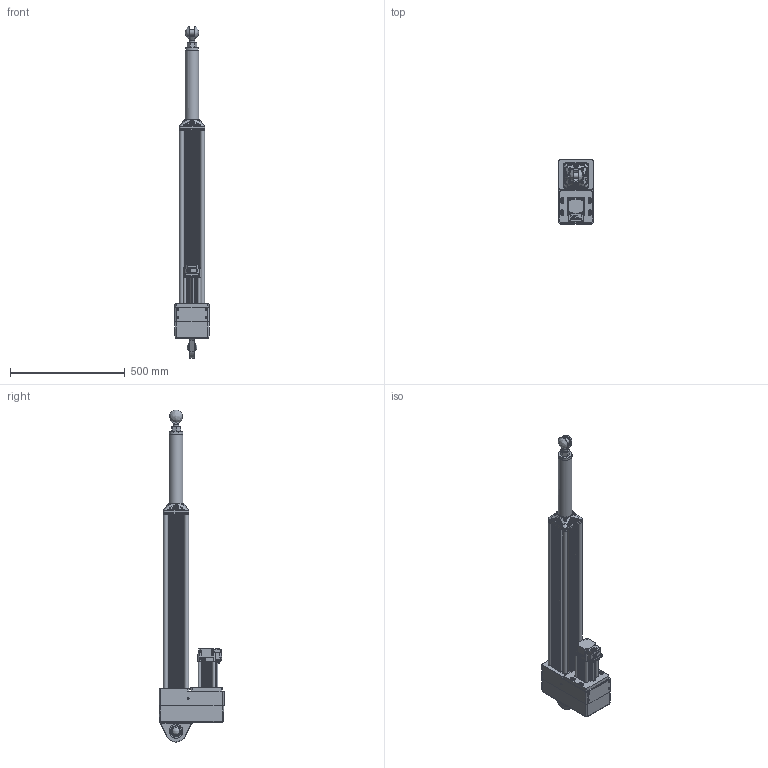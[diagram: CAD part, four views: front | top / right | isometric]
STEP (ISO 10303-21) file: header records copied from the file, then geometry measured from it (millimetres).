
FILE_DESCRIPTION (( 'STEP AP214' ), '1' );
FILE_NAME ('AG_9863 +-300.STEP', '2025-01-30T12:48:53', ( '' ), ( '' ), 'SwSTEP 2.0', 'SolidWorks 2022', '' );
FILE_SCHEMA (( 'AUTOMOTIVE_DESIGN' ));
Length unit declared in the file: millimetre
Products named in the file (1): AG_9863 +-300
Bounding box: 150 x 284.75 x 1444.73 mm (x, y, z)
Volume: 18002386.7 mm3; surface area: 1773393.6 mm2
Topology: 62 solids, 63 shells, 4421 faces, 11357 edges, 7389 vertices
Faces by surface type: plane 1923, cylinder 1175, bspline 900, cone 251, torus 153, sphere 19
Full cylindrical faces by diameter (mm): 2.5 x2, 2.845 x2, 2.934 x2, 3 x2, 3.24 x1, 3.242 x1, 3.5 x2, 3.676 x1, 4.019 x8, 4.2 x9, 4.201 x1, 4.3 x1, 4.773 x4, 5 x12, 5.5 x4, 5.7 x1, 5.9 x1, 6 x4, 6.466 x1, 6.6 x4, 6.8 x2, 6.9 x3, 7 x1, 7.8 x1, 8 x7, 8.1 x1, 8.16 x10, 8.49 x4, 8.5 x13, 9 x1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
Entity records: 218793 total; most frequent: CARTESIAN_POINT 68774, ORIENTED_EDGE 21900, DIRECTION 18752, EDGE_CURVE 10950, VERTEX_POINT 7303, AXIS2_PLACEMENT_3D 6442, LINE 5868, VECTOR 5868
